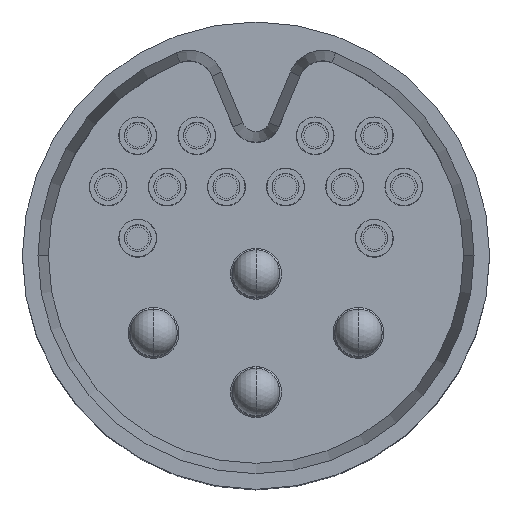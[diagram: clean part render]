
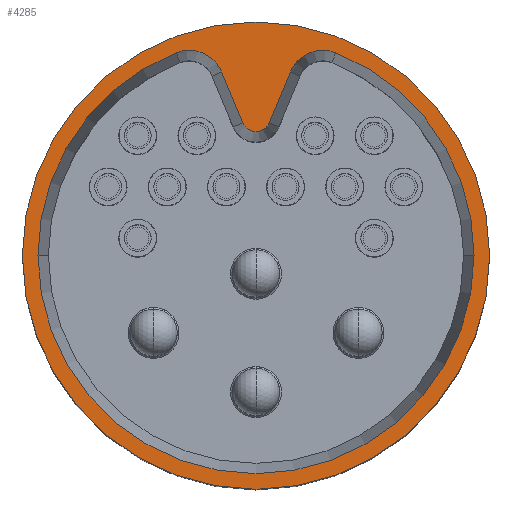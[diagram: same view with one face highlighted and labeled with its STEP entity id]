
A CAD part, top view. The second image highlights one B-rep face of the part: STEP entity #4285.
In plain terms, the highlighted planar face has unit normal (0, 0, 1).
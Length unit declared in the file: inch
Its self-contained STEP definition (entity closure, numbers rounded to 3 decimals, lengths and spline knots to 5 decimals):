
#202 = CIRCLE ( 'NONE', #5982, 0.1975 ) ;
#212 = CIRCLE ( 'NONE', #486, 0.18432 ) ;
#486 = AXIS2_PLACEMENT_3D ( 'NONE', #4831, #9574, #1002 ) ;
#507 = DIRECTION ( 'NONE',  ( 0., 0., -1. ) ) ;
#535 = DIRECTION ( 'NONE',  ( 1., 0., 0. ) ) ;
#568 = AXIS2_PLACEMENT_3D ( 'NONE', #5842, #8985, #9526 ) ;
#683 = ORIENTED_EDGE ( 'NONE', *, *, #7204, .T. ) ;
#818 = DIRECTION ( 'NONE',  ( 0., 0., -1. ) ) ;
#835 = VERTEX_POINT ( 'NONE', #8313 ) ;
#973 = DIRECTION ( 'NONE',  ( 1., 0., 0. ) ) ;
#1002 = DIRECTION ( 'NONE',  ( 1., 0., 0. ) ) ;
#1166 = CARTESIAN_POINT ( 'NONE',  ( -0.02901, 0.15519, 0.355 ) ) ;
#1169 = CARTESIAN_POINT ( 'NONE',  ( 0., 0., 0.355 ) ) ;
#1188 = CARTESIAN_POINT ( 'NONE',  ( -0.18432, 0., 0.355 ) ) ;
#1268 = DIRECTION ( 'NONE',  ( 1., 0., 0. ) ) ;
#1322 = VERTEX_POINT ( 'NONE', #1166 ) ;
#1360 = CARTESIAN_POINT ( 'NONE',  ( 0., 0., 0.355 ) ) ;
#1501 = AXIS2_PLACEMENT_3D ( 'NONE', #5129, #507, #1268 ) ;
#1555 = DIRECTION ( 'NONE',  ( 1., 0., 0. ) ) ;
#1973 = ORIENTED_EDGE ( 'NONE', *, *, #10081, .T. ) ;
#2098 = FACE_OUTER_BOUND ( 'NONE', #4442, .T. ) ;
#2122 = VERTEX_POINT ( 'NONE', #1188 ) ;
#2279 = CIRCLE ( 'NONE', #6639, 0.18432 ) ;
#2419 = AXIS2_PLACEMENT_3D ( 'NONE', #1360, #8460, #6886 ) ;
#2595 = VECTOR ( 'NONE', #6851, 39.37008 ) ;
#2714 = DIRECTION ( 'NONE',  ( 0., 0., 1. ) ) ;
#2859 = VERTEX_POINT ( 'NONE', #7113 ) ;
#3006 = EDGE_CURVE ( 'NONE', #5354, #4112, #212, .T. ) ;
#3341 = EDGE_CURVE ( 'NONE', #8690, #5354, #6125, .T. ) ;
#3452 = CARTESIAN_POINT ( 'NONE',  ( 0.01126, 0.11234, 0.355 ) ) ;
#3538 = ORIENTED_EDGE ( 'NONE', *, *, #3341, .T. ) ;
#3547 = EDGE_CURVE ( 'NONE', #2859, #5841, #202, .T. ) ;
#3618 = ORIENTED_EDGE ( 'NONE', *, *, #3547, .T. ) ;
#3889 = ORIENTED_EDGE ( 'NONE', *, *, #8712, .T. ) ;
#4112 = VERTEX_POINT ( 'NONE', #7484 ) ;
#4285 = ADVANCED_FACE ( 'NONE', ( #5146, #2098 ), #9112, .T. ) ;
#4346 = EDGE_CURVE ( 'NONE', #8706, #8690, #8430, .T. ) ;
#4442 = EDGE_LOOP ( 'NONE', ( #8755, #3618 ) ) ;
#4490 = ORIENTED_EDGE ( 'NONE', *, *, #3006, .T. ) ;
#4589 = CIRCLE ( 'NONE', #1501, 0.02982 ) ;
#4748 = EDGE_LOOP ( 'NONE', ( #10061, #3538, #4490, #6831, #1973, #683, #10010, #3889 ) ) ;
#4799 = CARTESIAN_POINT ( 'NONE',  ( 0., 0., 0.355 ) ) ;
#4831 = CARTESIAN_POINT ( 'NONE',  ( 0., 0., 0.355 ) ) ;
#5129 = CARTESIAN_POINT ( 'NONE',  ( -0.05655, 0.14378, 0.355 ) ) ;
#5146 = FACE_BOUND ( 'NONE', #4748, .T. ) ;
#5282 = CIRCLE ( 'NONE', #6595, 0.01218 ) ;
#5354 = VERTEX_POINT ( 'NONE', #9851 ) ;
#5379 = VERTEX_POINT ( 'NONE', #9887 ) ;
#5841 = VERTEX_POINT ( 'NONE', #6910 ) ;
#5842 = CARTESIAN_POINT ( 'NONE',  ( 0., 0., 0.355 ) ) ;
#5944 = EDGE_CURVE ( 'NONE', #5841, #2859, #8160, .T. ) ;
#5982 = AXIS2_PLACEMENT_3D ( 'NONE', #7366, #2714, #9821 ) ;
#6035 = CARTESIAN_POINT ( 'NONE',  ( 0.02901, 0.15519, 0.355 ) ) ;
#6125 = CIRCLE ( 'NONE', #6179, 0.02982 ) ;
#6165 = DIRECTION ( 'NONE',  ( 0., 0., 1. ) ) ;
#6179 = AXIS2_PLACEMENT_3D ( 'NONE', #9413, #818, #7909 ) ;
#6595 = AXIS2_PLACEMENT_3D ( 'NONE', #9211, #6165, #1555 ) ;
#6639 = AXIS2_PLACEMENT_3D ( 'NONE', #1169, #8955, #535 ) ;
#6831 = ORIENTED_EDGE ( 'NONE', *, *, #7140, .T. ) ;
#6851 = DIRECTION ( 'NONE',  ( 0.383, 0.924, 0. ) ) ;
#6869 = DIRECTION ( 'NONE',  ( 0.383, -0.924, 0. ) ) ;
#6886 = DIRECTION ( 'NONE',  ( 1., 0., 0. ) ) ;
#6910 = CARTESIAN_POINT ( 'NONE',  ( -0.1975, 0., 0.355 ) ) ;
#7092 = CIRCLE ( 'NONE', #568, 0.18432 ) ;
#7113 = CARTESIAN_POINT ( 'NONE',  ( 0.1975, 0., 0.355 ) ) ;
#7122 = LINE ( 'NONE', #10057, #8112 ) ;
#7140 = EDGE_CURVE ( 'NONE', #4112, #2122, #2279, .T. ) ;
#7204 = EDGE_CURVE ( 'NONE', #835, #1322, #4589, .T. ) ;
#7366 = CARTESIAN_POINT ( 'NONE',  ( 0., 0., 0.355 ) ) ;
#7484 = CARTESIAN_POINT ( 'NONE',  ( 0.18432, 0., 0.355 ) ) ;
#7909 = DIRECTION ( 'NONE',  ( 1., 0., 0. ) ) ;
#7938 = AXIS2_PLACEMENT_3D ( 'NONE', #4799, #8756, #973 ) ;
#8112 = VECTOR ( 'NONE', #6869, 39.37008 ) ;
#8142 = CARTESIAN_POINT ( 'NONE',  ( 0.02901, 0.15519, 0.355 ) ) ;
#8160 = CIRCLE ( 'NONE', #7938, 0.1975 ) ;
#8313 = CARTESIAN_POINT ( 'NONE',  ( -0.06747, 0.17153, 0.355 ) ) ;
#8430 = LINE ( 'NONE', #6035, #2595 ) ;
#8438 = EDGE_CURVE ( 'NONE', #1322, #5379, #7122, .T. ) ;
#8460 = DIRECTION ( 'NONE',  ( 0., 0., 1. ) ) ;
#8690 = VERTEX_POINT ( 'NONE', #8142 ) ;
#8706 = VERTEX_POINT ( 'NONE', #3452 ) ;
#8712 = EDGE_CURVE ( 'NONE', #5379, #8706, #5282, .T. ) ;
#8755 = ORIENTED_EDGE ( 'NONE', *, *, #5944, .T. ) ;
#8756 = DIRECTION ( 'NONE',  ( 0., 0., 1. ) ) ;
#8955 = DIRECTION ( 'NONE',  ( 0., 0., -1. ) ) ;
#8985 = DIRECTION ( 'NONE',  ( 0., 0., -1. ) ) ;
#9112 = PLANE ( 'NONE',  #2419 ) ;
#9211 = CARTESIAN_POINT ( 'NONE',  ( 0., 0.117, 0.355 ) ) ;
#9413 = CARTESIAN_POINT ( 'NONE',  ( 0.05655, 0.14378, 0.355 ) ) ;
#9526 = DIRECTION ( 'NONE',  ( 1., 0., 0. ) ) ;
#9574 = DIRECTION ( 'NONE',  ( 0., 0., -1. ) ) ;
#9821 = DIRECTION ( 'NONE',  ( 1., 0., 0. ) ) ;
#9851 = CARTESIAN_POINT ( 'NONE',  ( 0.06747, 0.17153, 0.355 ) ) ;
#9887 = CARTESIAN_POINT ( 'NONE',  ( -0.01126, 0.11234, 0.355 ) ) ;
#10010 = ORIENTED_EDGE ( 'NONE', *, *, #8438, .T. ) ;
#10057 = CARTESIAN_POINT ( 'NONE',  ( -0.01126, 0.11234, 0.355 ) ) ;
#10061 = ORIENTED_EDGE ( 'NONE', *, *, #4346, .T. ) ;
#10081 = EDGE_CURVE ( 'NONE', #2122, #835, #7092, .T. ) ;
